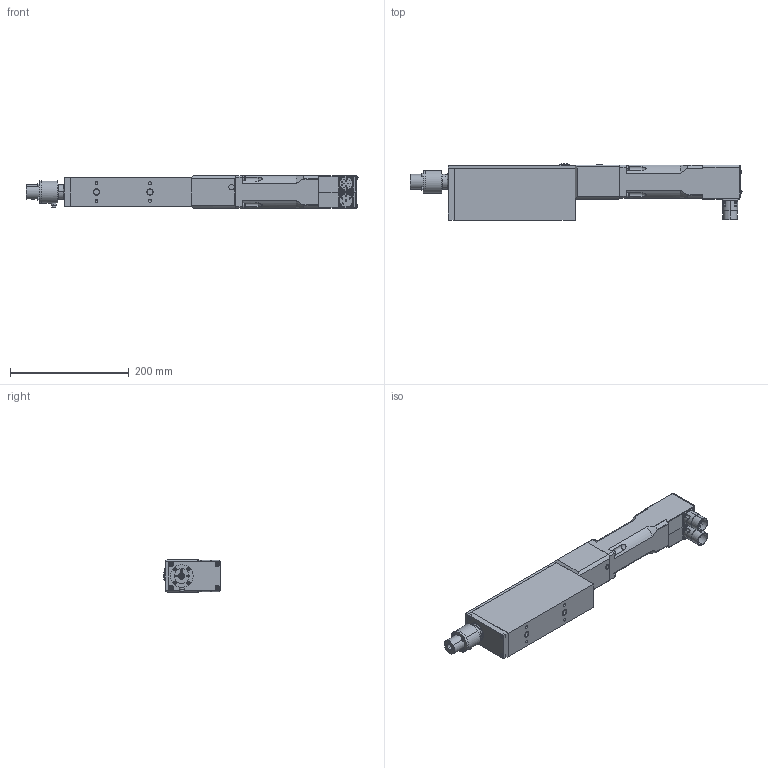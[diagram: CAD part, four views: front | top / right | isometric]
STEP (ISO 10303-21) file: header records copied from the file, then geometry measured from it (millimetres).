
FILE_DESCRIPTION (( 'STEP AP203' ), '1' );
FILE_NAME ('KM PR5ID005-010-040NG.STEP', '2021-02-04T13:00:23', ( '' ), ( '' ), 'SwSTEP 2.0', 'SolidWorks 2016', '' );
FILE_SCHEMA (( 'CONFIG_CONTROL_DESIGN' ));
Products named in the file (1): KM PR5ID005-010-040NG
Bounding box: 558.09 x 95.58 x 55 mm (x, y, z)
Volume: 1534252.3 mm3; surface area: 279023.3 mm2
Topology: 29 solids, 41 shells, 2105 faces, 4897 edges, 2896 vertices
Faces by surface type: plane 971, cylinder 583, cone 416, bspline 82, torus 40, sphere 13
Entity records: 62219 total; most frequent: CARTESIAN_POINT 15337, DIRECTION 9936, ORIENTED_EDGE 9450, EDGE_CURVE 4725, AXIS2_PLACEMENT_3D 3819, VERTEX_POINT 2883, EDGE_LOOP 2406, LINE 2298
